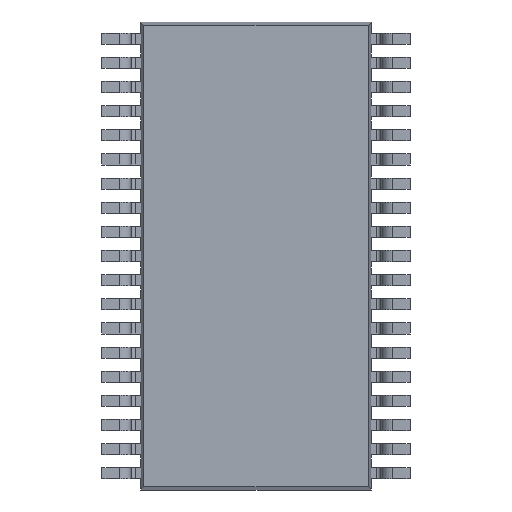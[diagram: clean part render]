
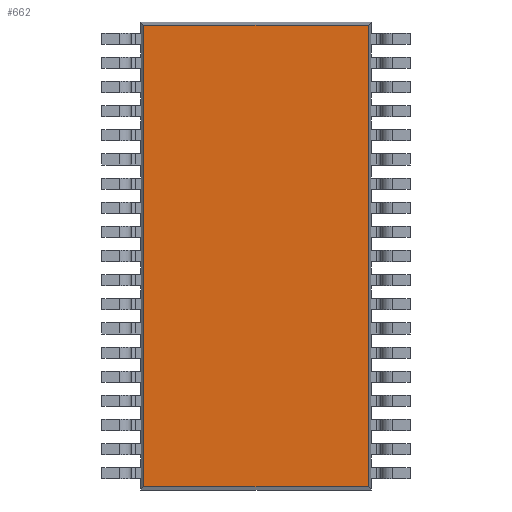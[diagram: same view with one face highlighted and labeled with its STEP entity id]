
A CAD part, front view. The second image highlights one B-rep face of the part: STEP entity #662.
In plain terms, the highlighted planar face has unit normal (0, -1, 0).
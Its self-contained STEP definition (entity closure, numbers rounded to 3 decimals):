
#662 = ADVANCED_FACE ( 'NONE', ( #8654 ), #21998, .F. ) ;
#1768 = VERTEX_POINT ( 'NONE', #16914 ) ;
#1781 = VERTEX_POINT ( 'NONE', #16927 ) ;
#1800 = VERTEX_POINT ( 'NONE', #16946 ) ;
#1808 = VERTEX_POINT ( 'NONE', #16954 ) ;
#2736 = EDGE_LOOP ( 'NONE', ( #3254, #3255, #3256, #3257 ) ) ;
#3254 = ORIENTED_EDGE ( 'NONE', *, *, #24401, .T. ) ;
#3255 = ORIENTED_EDGE ( 'NONE', *, *, #24329, .T. ) ;
#3256 = ORIENTED_EDGE ( 'NONE', *, *, #24393, .T. ) ;
#3257 = ORIENTED_EDGE ( 'NONE', *, *, #24328, .T. ) ;
#5789 = LINE ( 'NONE', #8026, #5806 ) ;
#5798 = LINE ( 'NONE', #8015, #5802 ) ;
#5802 = VECTOR ( 'NONE', #8017, 1000. ) ;
#5806 = VECTOR ( 'NONE', #8033, 1000. ) ;
#6038 = LINE ( 'NONE', #8291, #6044 ) ;
#6044 = VECTOR ( 'NONE', #8293, 1000. ) ;
#6068 = LINE ( 'NONE', #8323, #6074 ) ;
#6074 = VECTOR ( 'NONE', #8325, 1000. ) ;
#6151 = AXIS2_PLACEMENT_3D ( 'NONE', #21996, #21972, #21970 ) ;
#8015 = CARTESIAN_POINT ( 'NONE',  ( 3.1, 0.1, 6.216 ) ) ;
#8017 = DIRECTION ( 'NONE',  ( -1., 0., 0. ) ) ;
#8026 = CARTESIAN_POINT ( 'NONE',  ( 3.1, 0.1, -6.216 ) ) ;
#8033 = DIRECTION ( 'NONE',  ( 1., 0., 0. ) ) ;
#8291 = CARTESIAN_POINT ( 'NONE',  ( 3.016, 0.1, 6.3 ) ) ;
#8293 = DIRECTION ( 'NONE',  ( 0., 0., 1. ) ) ;
#8323 = CARTESIAN_POINT ( 'NONE',  ( -3.016, 0.1, 6.3 ) ) ;
#8325 = DIRECTION ( 'NONE',  ( 0., 0., -1. ) ) ;
#8654 = FACE_OUTER_BOUND ( 'NONE', #2736, .T. ) ;
#16914 = CARTESIAN_POINT ( 'NONE',  ( -3.016, 0.1, 6.216 ) ) ;
#16927 = CARTESIAN_POINT ( 'NONE',  ( -3.016, 0.1, -6.216 ) ) ;
#16946 = CARTESIAN_POINT ( 'NONE',  ( 3.016, 0.1, 6.216 ) ) ;
#16954 = CARTESIAN_POINT ( 'NONE',  ( 3.016, 0.1, -6.216 ) ) ;
#21970 = DIRECTION ( 'NONE',  ( 0., 0., 1. ) ) ;
#21972 = DIRECTION ( 'NONE',  ( 0., 1., 0. ) ) ;
#21996 = CARTESIAN_POINT ( 'NONE',  ( 0., 0.1, 0. ) ) ;
#21998 = PLANE ( 'NONE',  #6151 ) ;
#24328 = EDGE_CURVE ( 'NONE', #1800, #1768, #5798, .T. ) ;
#24329 = EDGE_CURVE ( 'NONE', #1781, #1808, #5789, .T. ) ;
#24393 = EDGE_CURVE ( 'NONE', #1808, #1800, #6038, .T. ) ;
#24401 = EDGE_CURVE ( 'NONE', #1768, #1781, #6068, .T. ) ;
